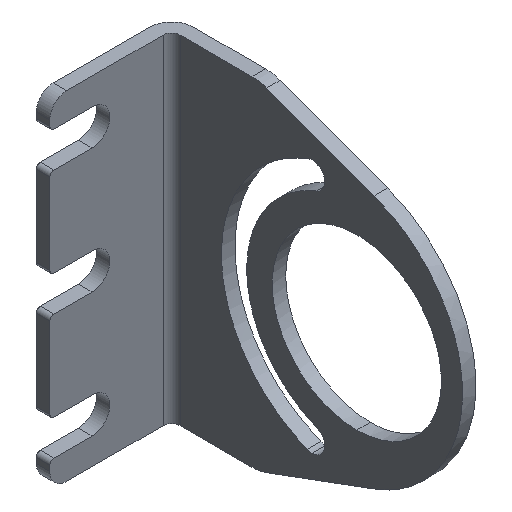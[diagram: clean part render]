
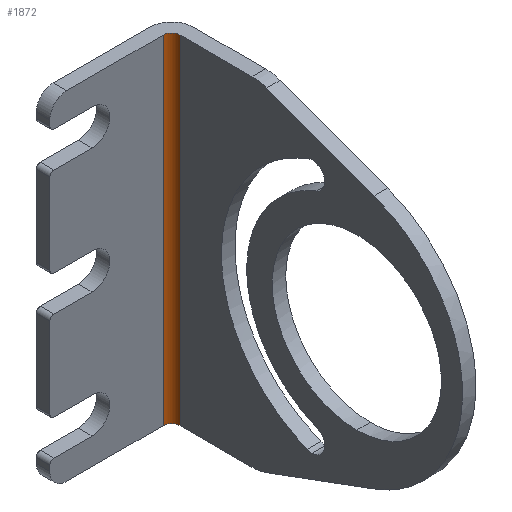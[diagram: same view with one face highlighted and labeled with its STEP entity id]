
A CAD part, isometric view. The second image highlights one B-rep face of the part: STEP entity #1872.
In plain terms, the highlighted cylindrical face has radius 1 mm (diameter 2 mm), a partial arc.
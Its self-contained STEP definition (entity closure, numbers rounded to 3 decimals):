
#11 = CARTESIAN_POINT ( 'NONE',  ( -182.1, 22.4, 20. ) ) ;
#24 = EDGE_CURVE ( 'NONE', #810, #838, #1532, .T. ) ;
#51 = CARTESIAN_POINT ( 'NONE',  ( -182.838, 23.4, 20. ) ) ;
#143 = CARTESIAN_POINT ( 'NONE',  ( -182.1, 22.4, 0. ) ) ;
#170 = FACE_OUTER_BOUND ( 'NONE', #1867, .T. ) ;
#242 = CARTESIAN_POINT ( 'NONE',  ( -182.208, 22.922, -20. ) ) ;
#245 = CARTESIAN_POINT ( 'NONE',  ( -183.1, 23.4, 20. ) ) ;
#288 = DIRECTION ( 'NONE',  ( 0., 0., 1. ) ) ;
#310 = DIRECTION ( 'NONE',  ( 0., 0., 1. ) ) ;
#432 = CARTESIAN_POINT ( 'NONE',  ( -183.1, 23.4, 0. ) ) ;
#476 = CARTESIAN_POINT ( 'NONE',  ( -183.1, 23.4, -20. ) ) ;
#545 = CYLINDRICAL_SURFACE ( 'NONE', #628, 1. ) ;
#555 = CARTESIAN_POINT ( 'NONE',  ( -182.1, 22.662, -20. ) ) ;
#608 = B_SPLINE_CURVE_WITH_KNOTS ( 'NONE', 3,
 ( #652, #1708, #950, #1405, #51, #1551 ),
 .UNSPECIFIED., .F., .F.,
 ( 4, 2, 4 ),
 ( 0., 0.5, 1. ),
 .UNSPECIFIED. ) ;
#628 = AXIS2_PLACEMENT_3D ( 'NONE', #1567, #1728, #824 ) ;
#631 = ORIENTED_EDGE ( 'NONE', *, *, #1244, .F. ) ;
#652 = CARTESIAN_POINT ( 'NONE',  ( -182.1, 22.4, 20. ) ) ;
#784 = CARTESIAN_POINT ( 'NONE',  ( -182.1, 22.4, -20. ) ) ;
#810 = VERTEX_POINT ( 'NONE', #1096 ) ;
#824 = DIRECTION ( 'NONE',  ( 0., -1., 0. ) ) ;
#838 = VERTEX_POINT ( 'NONE', #784 ) ;
#846 = EDGE_CURVE ( 'NONE', #1670, #1030, #608, .T. ) ;
#950 = CARTESIAN_POINT ( 'NONE',  ( -182.208, 22.922, 20. ) ) ;
#969 = LINE ( 'NONE', #432, #1798 ) ;
#1030 = VERTEX_POINT ( 'NONE', #245 ) ;
#1047 = ORIENTED_EDGE ( 'NONE', *, *, #24, .T. ) ;
#1067 = ORIENTED_EDGE ( 'NONE', *, *, #1669, .T. ) ;
#1096 = CARTESIAN_POINT ( 'NONE',  ( -183.1, 23.4, -20. ) ) ;
#1228 = VECTOR ( 'NONE', #310, 1000. ) ;
#1244 = EDGE_CURVE ( 'NONE', #810, #1030, #969, .T. ) ;
#1258 = ORIENTED_EDGE ( 'NONE', *, *, #846, .T. ) ;
#1405 = CARTESIAN_POINT ( 'NONE',  ( -182.578, 23.292, 20. ) ) ;
#1527 = CARTESIAN_POINT ( 'NONE',  ( -182.838, 23.4, -20. ) ) ;
#1532 = B_SPLINE_CURVE_WITH_KNOTS ( 'NONE', 3,
 ( #476, #1527, #1875, #242, #555, #1903 ),
 .UNSPECIFIED., .F., .F.,
 ( 4, 2, 4 ),
 ( 0., 0.5, 1. ),
 .UNSPECIFIED. ) ;
#1551 = CARTESIAN_POINT ( 'NONE',  ( -183.1, 23.4, 20. ) ) ;
#1567 = CARTESIAN_POINT ( 'NONE',  ( -183.1, 22.4, -20. ) ) ;
#1669 = EDGE_CURVE ( 'NONE', #838, #1670, #1774, .T. ) ;
#1670 = VERTEX_POINT ( 'NONE', #11 ) ;
#1708 = CARTESIAN_POINT ( 'NONE',  ( -182.1, 22.662, 20. ) ) ;
#1728 = DIRECTION ( 'NONE',  ( 0., 0., 1. ) ) ;
#1774 = LINE ( 'NONE', #143, #1228 ) ;
#1798 = VECTOR ( 'NONE', #288, 1000. ) ;
#1867 = EDGE_LOOP ( 'NONE', ( #631, #1047, #1067, #1258 ) ) ;
#1872 = ADVANCED_FACE ( 'NONE', ( #170 ), #545, .F. ) ;
#1875 = CARTESIAN_POINT ( 'NONE',  ( -182.578, 23.292, -20. ) ) ;
#1903 = CARTESIAN_POINT ( 'NONE',  ( -182.1, 22.4, -20. ) ) ;
